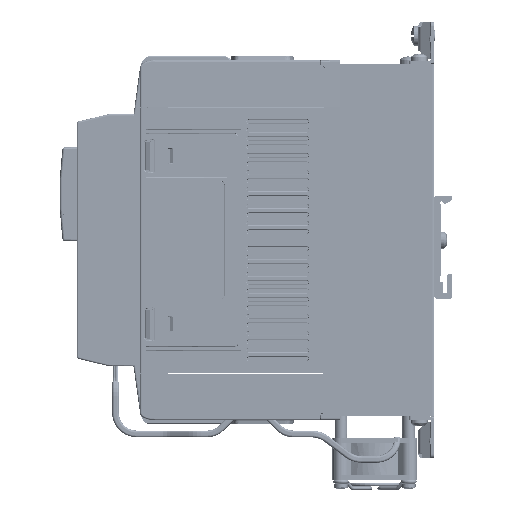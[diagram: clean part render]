
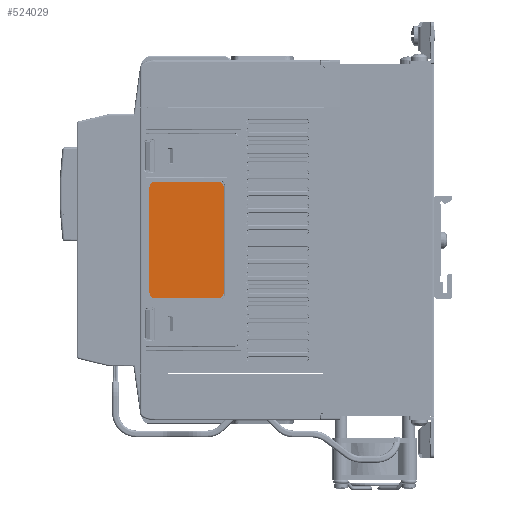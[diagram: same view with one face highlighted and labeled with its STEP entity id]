
A CAD part, front view. The second image highlights one B-rep face of the part: STEP entity #524029.
In plain terms, the highlighted planar face has unit normal (0, -1, 0).
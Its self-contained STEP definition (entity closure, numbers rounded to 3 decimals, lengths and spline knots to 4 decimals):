
#33759=PLANE('',#749974);
#39294=CIRCLE('',#749975,0.0984);
#39295=CIRCLE('',#749976,0.0984);
#39296=CIRCLE('',#749977,0.0984);
#39297=CIRCLE('',#749978,0.0984);
#77067=FACE_OUTER_BOUND('',#112694,.T.);
#112694=EDGE_LOOP('',(#484303,#484304,#484305,#484306,#484307,#484308,#484309,
#484310));
#181236=VERTEX_POINT('',#1160746);
#181237=VERTEX_POINT('',#1160747);
#181238=VERTEX_POINT('',#1160749);
#181239=VERTEX_POINT('',#1160751);
#181240=VERTEX_POINT('',#1160753);
#181241=VERTEX_POINT('',#1160755);
#181242=VERTEX_POINT('',#1160757);
#181243=VERTEX_POINT('',#1160759);
#282490=EDGE_CURVE('',#181236,#181237,#39294,.T.);
#282491=EDGE_CURVE('',#181238,#181237,#616657,.T.);
#282492=EDGE_CURVE('',#181238,#181239,#39295,.T.);
#282493=EDGE_CURVE('',#181240,#181239,#616658,.T.);
#282494=EDGE_CURVE('',#181240,#181241,#39296,.T.);
#282495=EDGE_CURVE('',#181242,#181241,#616659,.T.);
#282496=EDGE_CURVE('',#181242,#181243,#39297,.T.);
#282497=EDGE_CURVE('',#181236,#181243,#616660,.T.);
#484303=ORIENTED_EDGE('',*,*,#282490,.T.);
#484304=ORIENTED_EDGE('',*,*,#282491,.F.);
#484305=ORIENTED_EDGE('',*,*,#282492,.T.);
#484306=ORIENTED_EDGE('',*,*,#282493,.F.);
#484307=ORIENTED_EDGE('',*,*,#282494,.T.);
#484308=ORIENTED_EDGE('',*,*,#282495,.F.);
#484309=ORIENTED_EDGE('',*,*,#282496,.T.);
#484310=ORIENTED_EDGE('',*,*,#282497,.F.);
#524029=ADVANCED_FACE('',(#77067),#33759,.F.);
#616657=LINE('',#1160750,#709169);
#616658=LINE('',#1160754,#709170);
#616659=LINE('',#1160758,#709171);
#616660=LINE('',#1160761,#709172);
#709169=VECTOR('',#923806,0.0394);
#709170=VECTOR('',#923809,0.0394);
#709171=VECTOR('',#923812,0.0394);
#709172=VECTOR('',#923815,0.0394);
#749974=AXIS2_PLACEMENT_3D('',#1160745,#923802,#923803);
#749975=AXIS2_PLACEMENT_3D('',#1160748,#923804,#923805);
#749976=AXIS2_PLACEMENT_3D('',#1160752,#923807,#923808);
#749977=AXIS2_PLACEMENT_3D('',#1160756,#923810,#923811);
#749978=AXIS2_PLACEMENT_3D('',#1160760,#923813,#923814);
#923802=DIRECTION('center_axis',(0.,1.,0.));
#923803=DIRECTION('ref_axis',(-1.,0.,0.));
#923804=DIRECTION('center_axis',(0.,-1.,0.));
#923805=DIRECTION('ref_axis',(0.707,0.,-0.707));
#923806=DIRECTION('',(0.,0.,-1.));
#923807=DIRECTION('center_axis',(0.,-1.,0.));
#923808=DIRECTION('ref_axis',(0.707,0.,0.707));
#923809=DIRECTION('',(1.,0.,0.));
#923810=DIRECTION('center_axis',(0.,-1.,0.));
#923811=DIRECTION('ref_axis',(-0.707,0.,
0.707));
#923812=DIRECTION('',(0.,0.,1.));
#923813=DIRECTION('center_axis',(0.,-1.,0.));
#923814=DIRECTION('ref_axis',(-0.707,0.,-0.707));
#923815=DIRECTION('',(-1.,0.,0.));
#1160745=CARTESIAN_POINT('Origin',(-4.5984,-0.0039,
3.9764));
#1160746=CARTESIAN_POINT('',(-4.0079,-0.0039,2.8937));
#1160747=CARTESIAN_POINT('',(-3.9094,-0.0039,2.9921));
#1160748=CARTESIAN_POINT('Origin',(-4.0079,-0.0039,
2.9921));
#1160749=CARTESIAN_POINT('',(-3.9094,-0.0039,4.9606));
#1160750=CARTESIAN_POINT('',(-3.9094,-0.0039,5.0315));
#1160751=CARTESIAN_POINT('',(-4.0079,-0.0039,5.0591));
#1160752=CARTESIAN_POINT('Origin',(-4.0079,-0.0039,
4.9606));
#1160753=CARTESIAN_POINT('',(-5.189,-0.0039,5.0591));
#1160754=CARTESIAN_POINT('',(-5.2598,-0.0039,5.0591));
#1160755=CARTESIAN_POINT('',(-5.2874,-0.0039,4.9606));
#1160756=CARTESIAN_POINT('Origin',(-5.189,-0.0039,
4.9606));
#1160757=CARTESIAN_POINT('',(-5.2874,-0.0039,2.9921));
#1160758=CARTESIAN_POINT('',(-5.2874,-0.0039,2.9213));
#1160759=CARTESIAN_POINT('',(-5.189,-0.0039,2.8937));
#1160760=CARTESIAN_POINT('Origin',(-5.189,-0.0039,
2.9921));
#1160761=CARTESIAN_POINT('',(-3.937,-0.0039,2.8937));
